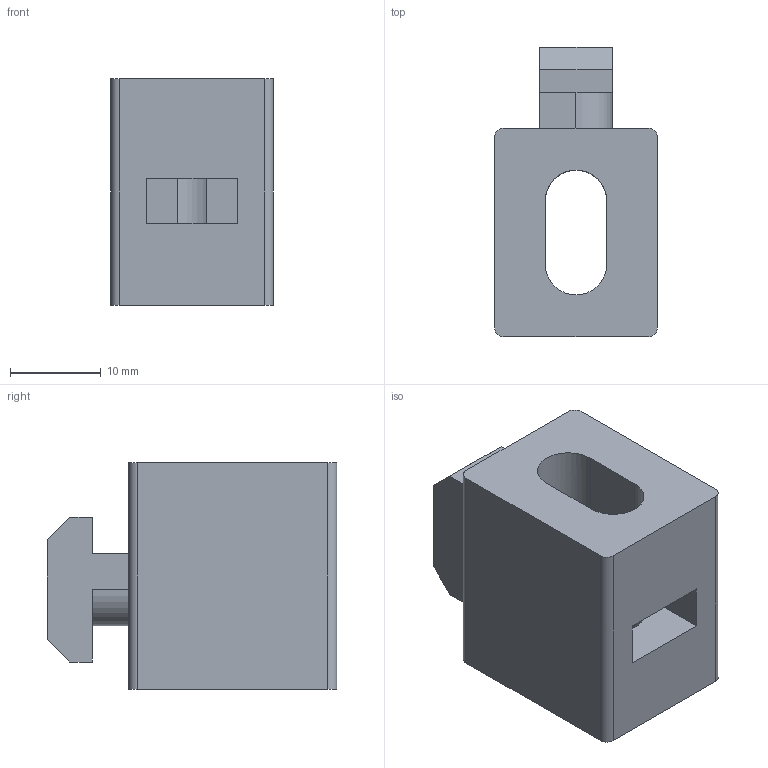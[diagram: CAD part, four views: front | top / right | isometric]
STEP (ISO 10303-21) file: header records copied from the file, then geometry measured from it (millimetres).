
FILE_DESCRIPTION (( 'STEP AP203' ), '1' );
FILE_NAME ('91-CE-PM-40E-B.STEP', '2015-07-09T08:33:40', ( '' ), ( '' ), 'SwSTEP 2.0', 'SolidWorks 2013', '' );
FILE_SCHEMA (( 'CONFIG_CONTROL_DESIGN' ));
Length unit declared in the file: millimetre
Products named in the file (1): 91-CE-PM-40E-B
Bounding box: 18 x 32 x 25 mm (x, y, z)
Volume: 8564.4 mm3; surface area: 4207.4 mm2
Topology: 1 solids, 1 shells, 36 faces, 102 edges, 68 vertices
Faces by surface type: plane 27, cylinder 9
Entity records: 1253 total; most frequent: CARTESIAN_POINT 207, ORIENTED_EDGE 204, DIRECTION 198, EDGE_CURVE 102, VECTOR 80, LINE 80, VERTEX_POINT 68, AXIS2_PLACEMENT_3D 59
